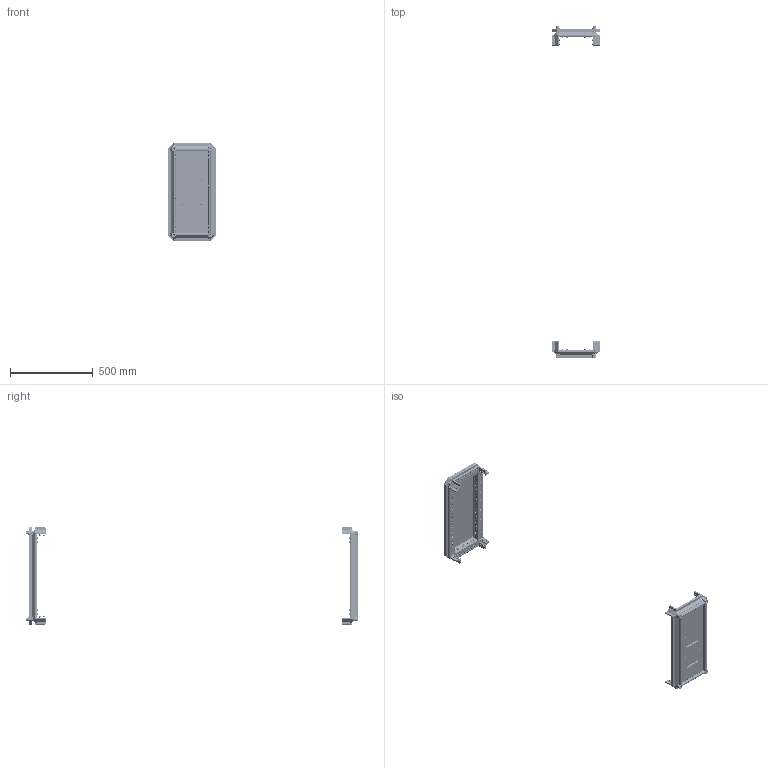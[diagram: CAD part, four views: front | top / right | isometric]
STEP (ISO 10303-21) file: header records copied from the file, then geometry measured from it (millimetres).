
FILE_DESCRIPTION (( 'STEP AP203' ), '1' );
FILE_NAME ('MA1.101.030620.00.00 AleSta-RB36 Êîìïëåêò êðûøà è îñíîâàíèå.STEP', '2025-02-19T13:52:57', ( '' ), ( '' ), 'SwSTEP 2.0', 'SolidWorks 2021', '' );
FILE_SCHEMA (( 'CONFIG_CONTROL_DESIGN' ));
Length unit declared in the file: millimetre
Products named in the file (19): Âèíò ñ âí. øåñòèãðàííèêîì M12 DIN912_•30; Øïèëüêà Ì6õ12_˜¯¨«ìª  Œ6å12; MA1.101.060620.20.01 Ïîëîòíî íèæíåé ïàíåëè 600õ600_300å600; MA1.101.060620.20.00 Íèæíÿÿ ïàíåëü 600õ600_300å600; Øàéáà ñòîïîðíàÿ ñ íàðóæíûìè çóáöàìè SCHNORR, òèï VS öèíêîâûå õëîïüÿ Ì6 O6,4 ART 88121_Œ6; ﾇﾀﾊﾋﾅﾏﾊﾀ ﾃﾀﾅﾗﾍﾀﾟ ﾘﾅﾑﾒﾈﾃﾐﾀﾍﾍﾀﾟ ﾑ ﾓﾌﾅﾍﾜﾘﾅﾍﾍﾛﾌ ﾁﾎﾐﾒﾎﾌ M4 X 11 (0.5-2.5 ﾌﾌ) HEX U-S ﾖﾈﾍﾊ; MA1.101.060620.10.00 Êðûøà 600x600_300å600; ﾘ琺矜 65ﾃ 019 ﾃﾎﾑﾒ 6402-70_12; MA1.101.030620.00.00 AleSta-RB36 Êîìïëåêò êðûøà è îñíîâàíèå; MA1.101.060620.10.01 Ïîëîòíî êðûøè 600õ600_300x600; Âèíò ðåçüáîâûäàâëèâàþùèé Ì6õ12 DIN 7500E_Œ6å10; MA1.101.060620.20.02 Çàêðûòèå íèæíåé ïàíåëè 600õ600_300x600; ﾘ琺矜 01.019 ﾃﾎﾑﾒ11371-78_12; 7380-2 ISO Âèíòû ñ ïîëóêðóãëîé ãîëîâêîé ñ ôëàíöåì ñ âíóòðåííèì øåñòèãðàííèêîì Ì4õ10; Óïëîòíèòåëü ïàíåëè íèæíåé_300å600; Âèíò_ðåçüáîâûäàâëèâàþùèé_Ì5õ12_DIN 7500E_Œ5å12; MA1.101.060620.00.02 Ïðîôèëü ïîïåðå÷íûé ñâàðíîé_01 L=498 (˜=600); MA1.101.060620.00.02 Ïðîôèëü ïîïåðå÷íûé ñâàðíîé_03 L=198 (˜=300); MA1.100.060620.00.01 Ñîåäèíèòåëü óãëîâîé_00
Assembly tree (215 placements, depth 3):
  MA1.101.030620.00.00 AleSta-RB36 Êîìïëåêò êðûøà è îñíîâàíèå
    MA1.101.060620.00.02 Ïðîôèëü ïîïåðå÷íûé ñâàðíîé_03 L=198 (˜=300)  x4
    MA1.101.060620.00.02 Ïðîôèëü ïîïåðå÷íûé ñâàðíîé_01 L=498 (˜=600)  x4
    MA1.101.060620.10.00 Êðûøà 600x600_300å600
      MA1.101.060620.10.01 Ïîëîòíî êðûøè 600õ600_300x600
      Øïèëüêà Ì6õ12_˜¯¨«ìª  Œ6å12  x4
      Óïëîòíèòåëü ïàíåëè íèæíåé_300å600
    MA1.101.060620.20.00 Íèæíÿÿ ïàíåëü 600õ600_300å600
      MA1.101.060620.20.01 Ïîëîòíî íèæíåé ïàíåëè 600õ600_300å600
      ﾇﾀﾊﾋﾅﾏﾊﾀ ﾃﾀﾅﾗﾍﾀﾟ ﾘﾅﾑﾒﾈﾃﾐﾀﾍﾍﾀﾟ ﾑ ﾓﾌﾅﾍﾜﾘﾅﾍﾍﾛﾌ ﾁﾎﾐﾒﾎﾌ M4 X 11 (0.5-2.5 ﾌﾌ) HEX U-S ﾖﾈﾍﾊ  x4
      MA1.101.060620.20.02 Çàêðûòèå íèæíåé ïàíåëè 600õ600_300x600  x2
      7380-2 ISO Âèíòû ñ ïîëóêðóãëîé ãîëîâêîé ñ ôëàíöåì ñ âíóòðåííèì øåñòèãðàííèêîì Ì4õ10  x4
    Âèíò_ðåçüáîâûäàâëèâàþùèé_Ì5õ12_DIN 7500E_Œ5å12  x8
    MA1.100.060620.00.01 Ñîåäèíèòåëü óãëîâîé_00  x8
    Âèíò ñ âí. øåñòèãðàííèêîì M12 DIN912_•30  x4
    Âèíò ðåçüáîâûäàâëèâàþùèé Ì6õ12 DIN 7500E_Œ6å10  x80
    ﾘ琺矜 01.019 ﾃﾎﾑﾒ11371-78_12  x4
    ﾘ琺矜 65ﾃ 019 ﾃﾎﾑﾒ 6402-70_12  x4
    Øàéáà ñòîïîðíàÿ ñ íàðóæíûìè çóáöàìè SCHNORR, òèï VS öèíêîâûå õëîïüÿ Ì6 O6,4 ART 88121_Œ6  x80
Bounding box: 292 x 2010.9 x 592 mm (x, y, z)
Volume: 2391865.5 mm3; surface area: 2035616.2 mm2
Topology: 213 solids, 213 shells, 11238 faces, 28840 edges, 18032 vertices
Faces by surface type: plane 8286, cylinder 2136, cone 520, bspline 248, torus 48
Entity records: 56376 total; most frequent: CARTESIAN_POINT 11899, DIRECTION 7698, ORIENTED_EDGE 7518, EDGE_CURVE 3759, VECTOR 2770, LINE 2770, AXIS2_PLACEMENT_3D 2464, VERTEX_POINT 2263
